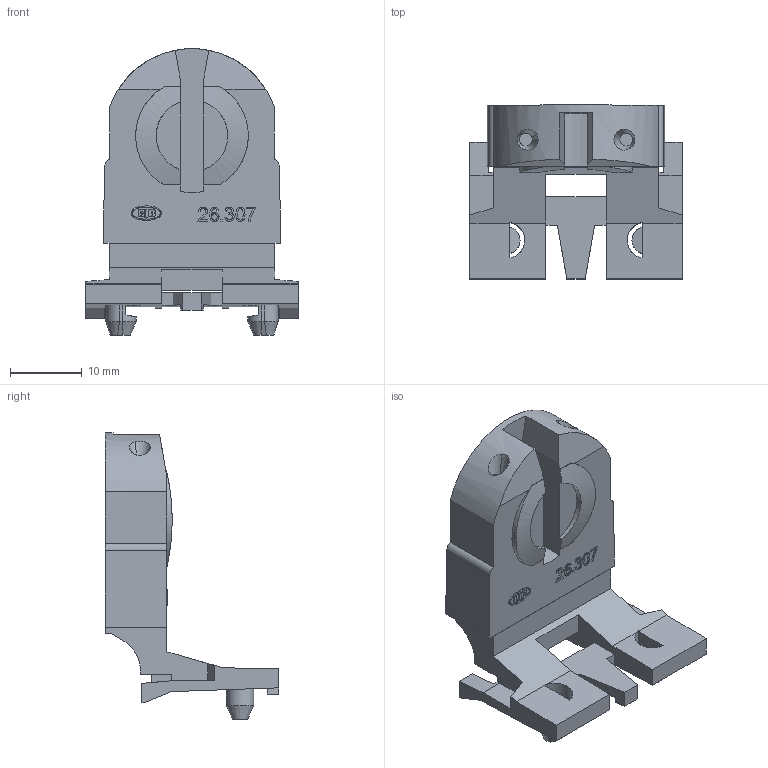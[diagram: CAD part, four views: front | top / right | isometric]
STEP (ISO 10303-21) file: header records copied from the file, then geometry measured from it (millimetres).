
FILE_DESCRIPTION((' '),'1');
FILE_NAME('00T-X02-08.stp','2006-06-13 T',(' '),(' '),'STEP Interface v1.0 by CT CoreTechnologie','3D_Evolution v1.0 by CT CoreTechnologie',' ');
FILE_SCHEMA(('CONFIG_CONTROL_DESIGN'));
Length unit declared in the file: millimetre
Products named in the file (1): 00T-X02-08
Bounding box: 29.6 x 24.2 x 39.92 mm (x, y, z)
Volume: 5772.7 mm3; surface area: 4607.7 mm2
Topology: 1 solids, 1 shells, 299 faces, 816 edges, 540 vertices
Faces by surface type: plane 189, cylinder 96, bspline 10, cone 4
Entity records: 11497 total; most frequent: CARTESIAN_POINT 2920, ORIENTED_EDGE 1632, DIRECTION 1564, EDGE_CURVE 816, VECTOR 588, LINE 588, VERTEX_POINT 540, AXIS2_PLACEMENT_3D 488
